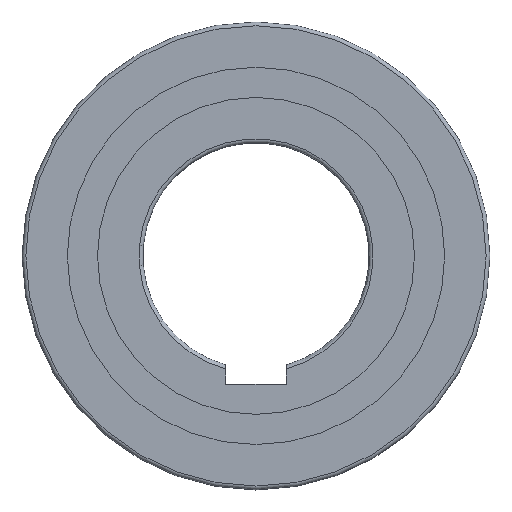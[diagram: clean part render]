
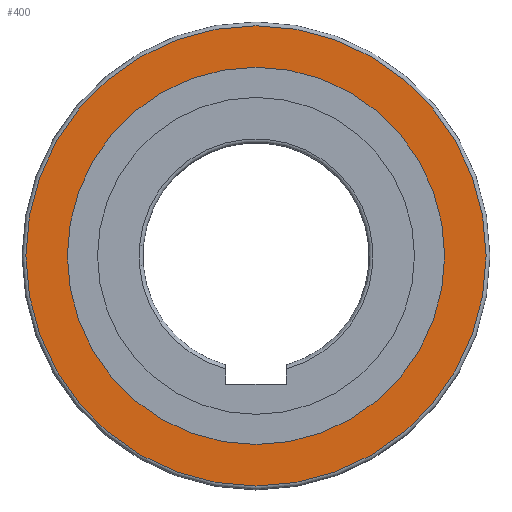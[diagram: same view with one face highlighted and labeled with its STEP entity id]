
A CAD part, top view. The second image highlights one B-rep face of the part: STEP entity #400.
In plain terms, the highlighted planar face has unit normal (0, 0, 1).
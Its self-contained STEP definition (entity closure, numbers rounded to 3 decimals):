
#400=ADVANCED_FACE('',(#675,#676),#472,.T.);
#472=PLANE('',#1454);
#675=FACE_BOUND('',#741,.T.);
#676=FACE_BOUND('',#742,.T.);
#741=EDGE_LOOP('',(#859));
#742=EDGE_LOOP('',(#860));
#859=ORIENTED_EDGE('',*,*,#1247,.T.);
#860=ORIENTED_EDGE('',*,*,#1243,.F.);
#1139=VERTEX_POINT('',#1966);
#1143=VERTEX_POINT('',#1976);
#1243=EDGE_CURVE('',#1139,#1139,#1379,.T.);
#1247=EDGE_CURVE('',#1143,#1143,#1383,.T.);
#1379=CIRCLE('',#1447,25.);
#1383=CIRCLE('',#1453,30.5);
#1447=AXIS2_PLACEMENT_3D('',#1965,#1605,#1606);
#1453=AXIS2_PLACEMENT_3D('',#1975,#1617,#1618);
#1454=AXIS2_PLACEMENT_3D('',#1977,#1619,#1620);
#1605=DIRECTION('',(0.,0.,1.));
#1606=DIRECTION('',(1.,0.,0.));
#1617=DIRECTION('',(0.,0.,1.));
#1618=DIRECTION('',(1.,0.,0.));
#1619=DIRECTION('',(0.,0.,1.));
#1620=DIRECTION('',(1.,0.,0.));
#1965=CARTESIAN_POINT('',(0.,0.,16.));
#1966=CARTESIAN_POINT('',(25.,0.,16.));
#1975=CARTESIAN_POINT('',(0.,0.,16.));
#1976=CARTESIAN_POINT('',(30.5,0.,16.));
#1977=CARTESIAN_POINT('',(0.,0.,16.));
